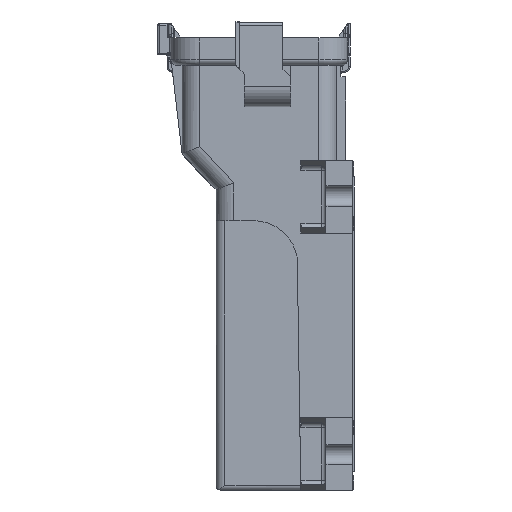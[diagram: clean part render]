
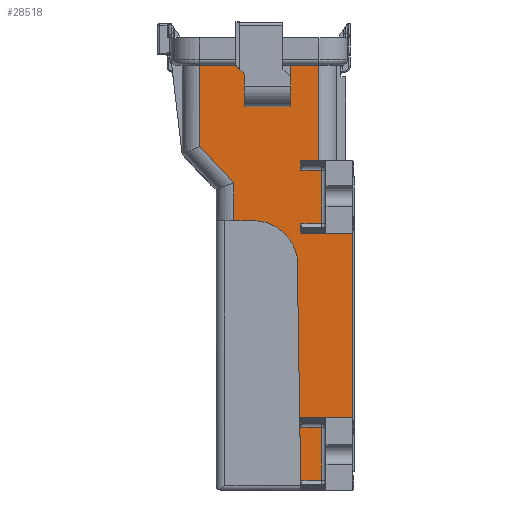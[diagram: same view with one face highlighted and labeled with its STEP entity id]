
A CAD part, left-side view. The second image highlights one B-rep face of the part: STEP entity #28518.
In plain terms, the highlighted planar face has unit normal (-1, 0, 0).
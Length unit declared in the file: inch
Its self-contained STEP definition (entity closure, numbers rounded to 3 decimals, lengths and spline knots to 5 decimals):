
#2=DIRECTION('',(0.,-1.,0.));
#3=VECTOR('',#2,0.405);
#4=CARTESIAN_POINT('',(-2.455,1.55,1.));
#5=LINE('',#4,#3);
#6=DIRECTION('',(0.,0.707,0.707));
#7=VECTOR('',#6,0.14142);
#8=CARTESIAN_POINT('',(-2.455,1.045,0.9));
#9=LINE('',#8,#7);
#10=DIRECTION('',(0.,0.,1.));
#11=VECTOR('',#10,0.37);
#12=CARTESIAN_POINT('',(-2.455,1.045,0.53));
#13=LINE('',#12,#11);
#14=DIRECTION('',(0.,1.,0.));
#15=VECTOR('',#14,0.525);
#16=CARTESIAN_POINT('',(-2.455,0.52,0.53));
#17=LINE('',#16,#15);
#18=DIRECTION('',(0.,0.,-1.));
#19=VECTOR('',#18,0.47);
#20=CARTESIAN_POINT('',(-2.455,0.52,1.));
#21=LINE('',#20,#19);
#22=DIRECTION('',(0.,-1.,0.));
#23=VECTOR('',#22,0.32);
#24=CARTESIAN_POINT('',(-2.455,0.52,1.));
#25=LINE('',#24,#23);
#26=DIRECTION('',(0.,1.,0.));
#27=VECTOR('',#26,0.205);
#28=CARTESIAN_POINT('',(-2.455,0.2,-0.08));
#29=LINE('',#28,#27);
#30=DIRECTION('',(0.,1.,0.));
#31=VECTOR('',#30,0.585);
#32=CARTESIAN_POINT('',(-2.455,-0.18,-0.9));
#33=LINE('',#32,#31);
#34=DIRECTION('',(0.,1.,0.));
#35=VECTOR('',#34,0.585);
#36=CARTESIAN_POINT('',(-2.455,-0.18,-2.99));
#37=LINE('',#36,#35);
#38=DIRECTION('',(0.,-0.015,-1.));
#39=VECTOR('',#38,2.6259);
#40=CARTESIAN_POINT('',(-2.455,0.445,-1.1844));
#41=LINE('',#40,#39);
#42=CARTESIAN_POINT('',(-2.455,0.93925,-1.26));
#43=DIRECTION('',(1.,0.,0.));
#44=DIRECTION('',(0.,0.,1.));
#45=AXIS2_PLACEMENT_3D('',#42,#43,#44);
#47=DIRECTION('',(0.,-1.,0.));
#48=VECTOR('',#47,0.22575);
#49=CARTESIAN_POINT('',(-2.455,1.165,-0.76));
#50=LINE('',#49,#48);
#12021=DIRECTION('',(0.,0.,-1.));
#12022=VECTOR('',#12021,2.09);
#12023=CARTESIAN_POINT('',(-2.455,-0.18,-0.9));
#12024=LINE('',#12023,#12022);
#12345=DIRECTION('',(0.,0.,1.));
#12346=VECTOR('',#12345,0.11);
#12347=CARTESIAN_POINT('',(-2.455,0.405,-0.19));
#12348=LINE('',#12347,#12346);
#12362=DIRECTION('',(0.,-1.,0.));
#12363=VECTOR('',#12362,0.235);
#12364=CARTESIAN_POINT('',(-2.455,0.405,-0.19));
#12365=LINE('',#12364,#12363);
#12383=DIRECTION('',(0.,0.,-1.));
#12384=VECTOR('',#12383,0.6);
#12385=CARTESIAN_POINT('',(-2.455,0.17,-0.19));
#12386=LINE('',#12385,#12384);
#12481=DIRECTION('',(0.,0.,1.));
#12482=VECTOR('',#12481,0.11);
#12483=CARTESIAN_POINT('',(-2.455,0.405,-0.9));
#12484=LINE('',#12483,#12482);
#12522=DIRECTION('',(0.,1.,0.));
#12523=VECTOR('',#12522,0.235);
#12524=CARTESIAN_POINT('',(-2.455,0.17,-0.79));
#12525=LINE('',#12524,#12523);
#12745=DIRECTION('',(0.,0.,1.));
#12746=VECTOR('',#12745,0.11);
#12747=CARTESIAN_POINT('',(-2.455,0.405,-3.81));
#12748=LINE('',#12747,#12746);
#12753=DIRECTION('',(0.,1.,0.));
#12754=VECTOR('',#12753,0.235);
#12755=CARTESIAN_POINT('',(-2.455,0.17,-3.7));
#12756=LINE('',#12755,#12754);
#12838=DIRECTION('',(0.,0.,-1.));
#12839=VECTOR('',#12838,0.6);
#12840=CARTESIAN_POINT('',(-2.455,0.17,-3.1));
#12841=LINE('',#12840,#12839);
#12865=DIRECTION('',(0.,-1.,0.));
#12866=VECTOR('',#12865,0.235);
#12867=CARTESIAN_POINT('',(-2.455,0.405,-3.1));
#12868=LINE('',#12867,#12866);
#12877=DIRECTION('',(0.,0.,1.));
#12878=VECTOR('',#12877,0.11);
#12879=CARTESIAN_POINT('',(-2.455,0.405,-3.1));
#12880=LINE('',#12879,#12878);
#14707=DIRECTION('',(0.,0.,-1.));
#14708=VECTOR('',#14707,0.92082);
#14709=CARTESIAN_POINT('',(-2.455,1.55,1.));
#14710=LINE('',#14709,#14708);
#14728=DIRECTION('',(0.,-0.685,-0.729));
#14729=VECTOR('',#14728,0.56243);
#14730=CARTESIAN_POINT('',(-2.455,1.55,0.07918));
#14731=LINE('',#14730,#14729);
#17670=DIRECTION('',(0.,0.,-1.));
#17671=VECTOR('',#17670,0.42918);
#17672=CARTESIAN_POINT('',(-2.455,1.165,-0.33082));
#17673=LINE('',#17672,#17671);
#23207=DIRECTION('',(0.,0.,1.));
#23208=VECTOR('',#23207,1.08);
#23209=CARTESIAN_POINT('',(-2.455,0.2,-0.08));
#23210=LINE('',#23209,#23208);
#23530=CARTESIAN_POINT('',(-2.455,0.93925,-0.76));
#23531=CARTESIAN_POINT('',(-2.455,0.445,-1.1844));
#23532=VERTEX_POINT('',#23530);
#23533=VERTEX_POINT('',#23531);
#23568=CARTESIAN_POINT('',(-2.455,1.165,-0.33082));
#23569=CARTESIAN_POINT('',(-2.455,1.165,-0.76));
#23570=VERTEX_POINT('',#23568);
#23571=VERTEX_POINT('',#23569);
#23572=CARTESIAN_POINT('',(-2.455,1.55,0.07918));
#23573=VERTEX_POINT('',#23572);
#23758=CARTESIAN_POINT('',(-2.455,0.2,1.));
#23760=VERTEX_POINT('',#23758);
#23766=CARTESIAN_POINT('',(-2.455,1.55,1.));
#23767=VERTEX_POINT('',#23766);
#23854=CARTESIAN_POINT('',(-2.455,0.52,1.));
#23855=CARTESIAN_POINT('',(-2.455,0.52,0.53));
#23856=VERTEX_POINT('',#23854);
#23857=VERTEX_POINT('',#23855);
#24567=CARTESIAN_POINT('',(-2.455,0.17,-0.79));
#24568=CARTESIAN_POINT('',(-2.455,0.405,-0.79));
#24569=VERTEX_POINT('',#24567);
#24570=VERTEX_POINT('',#24568);
#24583=CARTESIAN_POINT('',(-2.455,0.17,-0.19));
#24584=VERTEX_POINT('',#24583);
#24595=CARTESIAN_POINT('',(-2.455,0.405,-3.1));
#24596=CARTESIAN_POINT('',(-2.455,0.17,-3.1));
#24597=VERTEX_POINT('',#24595);
#24598=VERTEX_POINT('',#24596);
#24599=CARTESIAN_POINT('',(-2.455,0.17,-3.7));
#24600=VERTEX_POINT('',#24599);
#24823=CARTESIAN_POINT('',(-2.455,0.405,-3.81));
#24824=VERTEX_POINT('',#24823);
#24829=CARTESIAN_POINT('',(-2.455,0.2,-0.08));
#24830=CARTESIAN_POINT('',(-2.455,0.405,-0.08));
#24831=VERTEX_POINT('',#24829);
#24832=VERTEX_POINT('',#24830);
#24855=CARTESIAN_POINT('',(-2.455,0.405,-0.19));
#24856=VERTEX_POINT('',#24855);
#24857=CARTESIAN_POINT('',(-2.455,0.405,-3.7));
#24858=VERTEX_POINT('',#24857);
#25839=CARTESIAN_POINT('',(-2.455,1.045,0.53));
#25840=VERTEX_POINT('',#25839);
#25845=CARTESIAN_POINT('',(-2.455,1.045,0.9));
#25846=VERTEX_POINT('',#25845);
#26596=CARTESIAN_POINT('',(-2.455,1.145,1.));
#26598=VERTEX_POINT('',#26596);
#28369=CARTESIAN_POINT('',(-2.455,-0.18,-2.99));
#28370=CARTESIAN_POINT('',(-2.455,0.405,-2.99));
#28371=VERTEX_POINT('',#28369);
#28372=VERTEX_POINT('',#28370);
#28385=CARTESIAN_POINT('',(-2.455,-0.18,-0.9));
#28386=CARTESIAN_POINT('',(-2.455,0.405,-0.9));
#28387=VERTEX_POINT('',#28385);
#28388=VERTEX_POINT('',#28386);
#28457=CARTESIAN_POINT('',(-2.455,0.,0.));
#28458=DIRECTION('',(1.,0.,0.));
#28459=DIRECTION('',(0.,0.,-1.));
#28460=AXIS2_PLACEMENT_3D('',#28457,#28458,#28459);
#28461=PLANE('',#28460);
#28463=ORIENTED_EDGE('',*,*,#28462,.T.);
#28465=ORIENTED_EDGE('',*,*,#28464,.F.);
#28467=ORIENTED_EDGE('',*,*,#28466,.F.);
#28469=ORIENTED_EDGE('',*,*,#28468,.F.);
#28471=ORIENTED_EDGE('',*,*,#28470,.F.);
#28473=ORIENTED_EDGE('',*,*,#28472,.T.);
#28475=ORIENTED_EDGE('',*,*,#28474,.F.);
#28477=ORIENTED_EDGE('',*,*,#28476,.T.);
#28479=ORIENTED_EDGE('',*,*,#28478,.F.);
#28481=ORIENTED_EDGE('',*,*,#28480,.T.);
#28483=ORIENTED_EDGE('',*,*,#28482,.T.);
#28485=ORIENTED_EDGE('',*,*,#28484,.T.);
#28487=ORIENTED_EDGE('',*,*,#28486,.F.);
#28489=ORIENTED_EDGE('',*,*,#28488,.F.);
#28491=ORIENTED_EDGE('',*,*,#28490,.T.);
#28493=ORIENTED_EDGE('',*,*,#28492,.T.);
#28495=ORIENTED_EDGE('',*,*,#28494,.F.);
#28497=ORIENTED_EDGE('',*,*,#28496,.T.);
#28499=ORIENTED_EDGE('',*,*,#28498,.T.);
#28501=ORIENTED_EDGE('',*,*,#28500,.T.);
#28503=ORIENTED_EDGE('',*,*,#28502,.F.);
#28505=ORIENTED_EDGE('',*,*,#28504,.F.);
#28507=ORIENTED_EDGE('',*,*,#28506,.F.);
#28509=ORIENTED_EDGE('',*,*,#28508,.F.);
#28511=ORIENTED_EDGE('',*,*,#28510,.F.);
#28513=ORIENTED_EDGE('',*,*,#28512,.F.);
#28515=ORIENTED_EDGE('',*,*,#28514,.F.);
#28516=EDGE_LOOP('',(#28463,#28465,#28467,#28469,#28471,#28473,#28475,#28477,
#28479,#28481,#28483,#28485,#28487,#28489,#28491,#28493,#28495,#28497,#28499,
#28501,#28503,#28505,#28507,#28509,#28511,#28513,#28515));
#28517=FACE_OUTER_BOUND('',#28516,.F.);
#28518=ADVANCED_FACE('',(#28517),#28461,.F.);
#46=CIRCLE('',#45,0.5);
#28462=EDGE_CURVE('',#23767,#26598,#5,.T.);
#28464=EDGE_CURVE('',#25846,#26598,#9,.T.);
#28466=EDGE_CURVE('',#25840,#25846,#13,.T.);
#28468=EDGE_CURVE('',#23857,#25840,#17,.T.);
#28470=EDGE_CURVE('',#23856,#23857,#21,.T.);
#28472=EDGE_CURVE('',#23856,#23760,#25,.T.);
#28474=EDGE_CURVE('',#24831,#23760,#23210,.T.);
#28476=EDGE_CURVE('',#24831,#24832,#29,.T.);
#28478=EDGE_CURVE('',#24856,#24832,#12348,.T.);
#28480=EDGE_CURVE('',#24856,#24584,#12365,.T.);
#28482=EDGE_CURVE('',#24584,#24569,#12386,.T.);
#28484=EDGE_CURVE('',#24569,#24570,#12525,.T.);
#28486=EDGE_CURVE('',#28388,#24570,#12484,.T.);
#28488=EDGE_CURVE('',#28387,#28388,#33,.T.);
#28490=EDGE_CURVE('',#28387,#28371,#12024,.T.);
#28492=EDGE_CURVE('',#28371,#28372,#37,.T.);
#28494=EDGE_CURVE('',#24597,#28372,#12880,.T.);
#28496=EDGE_CURVE('',#24597,#24598,#12868,.T.);
#28498=EDGE_CURVE('',#24598,#24600,#12841,.T.);
#28500=EDGE_CURVE('',#24600,#24858,#12756,.T.);
#28502=EDGE_CURVE('',#24824,#24858,#12748,.T.);
#28504=EDGE_CURVE('',#23533,#24824,#41,.T.);
#28506=EDGE_CURVE('',#23532,#23533,#46,.T.);
#28508=EDGE_CURVE('',#23571,#23532,#50,.T.);
#28510=EDGE_CURVE('',#23570,#23571,#17673,.T.);
#28512=EDGE_CURVE('',#23573,#23570,#14731,.T.);
#28514=EDGE_CURVE('',#23767,#23573,#14710,.T.);
